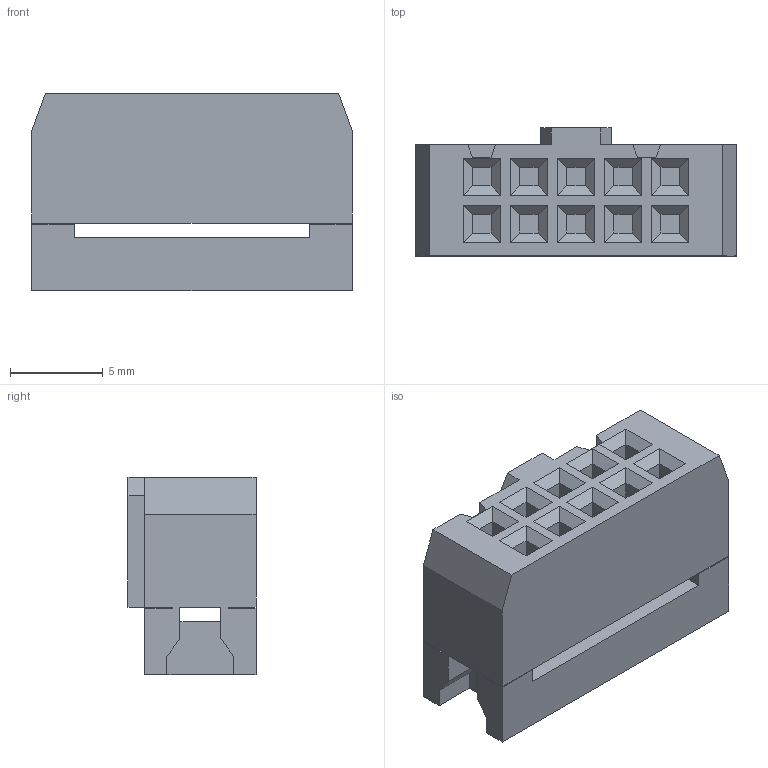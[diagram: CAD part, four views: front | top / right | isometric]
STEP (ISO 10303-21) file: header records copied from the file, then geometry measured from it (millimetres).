
FILE_DESCRIPTION (( 'STEP AP214' ), '1' );
FILE_NAME ('IDC-10F.STEP', '2011-05-17T10:30:28', ( 'vpeshkov' ), ( 'licard' ), 'SwSTEP 2.0', 'SolidWorks 2009', '' );
FILE_SCHEMA (( 'AUTOMOTIVE_DESIGN' ));
Length unit declared in the file: millimetre
Products named in the file (1): IDC-10F
Bounding box: 17.26 x 6.9 x 10.65 mm (x, y, z)
Volume: 921 mm3; surface area: 1164.3 mm2
Topology: 1 solids, 1 shells, 132 faces, 364 edges, 228 vertices
Faces by surface type: plane 132
Entity records: 4142 total; most frequent: ORIENTED_EDGE 728, CARTESIAN_POINT 725, DIRECTION 630, EDGE_CURVE 364, VECTOR 364, LINE 364, VERTEX_POINT 228, EDGE_LOOP 152
